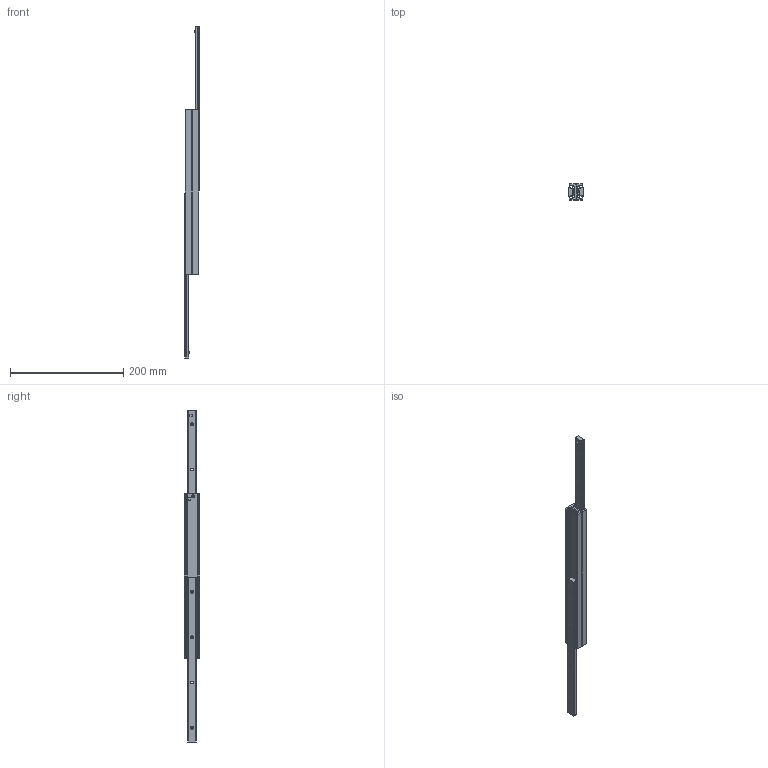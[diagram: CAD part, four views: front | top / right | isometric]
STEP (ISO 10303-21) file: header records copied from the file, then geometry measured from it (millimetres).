
FILE_DESCRIPTION( ( 'STEP AP214' ), '1' );
FILE_NAME( 'p:/temp/worker_90/temp/exporttempdir_3096_1580_6HYf2/format_1/DEF28-290296.stp', '2020-03-20T19:43:46', ( 'License CC BY-ND 4.0' ), ( 'CADENAS' ), ' ', 'PARTsolutions', ' ' );
FILE_SCHEMA( ( 'AUTOMOTIVE_DESIGN { 1 0 10303 214 1 1 1 1 }' ) );
Length unit declared in the file: millimetre
Products named in the file (4): DEF28-290296; _282129029612-gf; _28212902961-ei; _282129029611-gf
Assembly tree (4 placements, depth 2):
  DEF28-290296
    _282129029612-gf
    _28212902961-ei  x2
    _282129029611-gf
Bounding box: 26 x 28 x 586 mm (x, y, z)
Volume: 140778.7 mm3; surface area: 84740.6 mm2
Topology: 4 solids, 4 shells, 174 faces, 444 edges, 290 vertices
Faces by surface type: plane 102, cylinder 52, cone 20
Full cylindrical faces by diameter (mm): 4.134 x8, 5 x2
Entity records: 4800 total; most frequent: DIRECTION 656, CARTESIAN_POINT 634, ORIENTED_EDGE 588, EDGE_CURVE 294, AXIS2_PLACEMENT_3D 230, VERTEX_POINT 208, LINE 196, VECTOR 196
